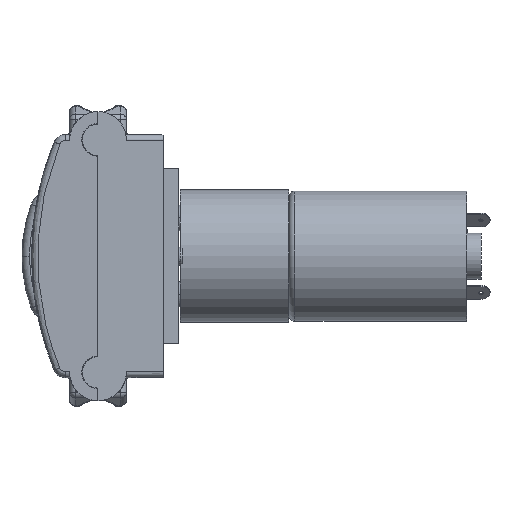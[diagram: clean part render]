
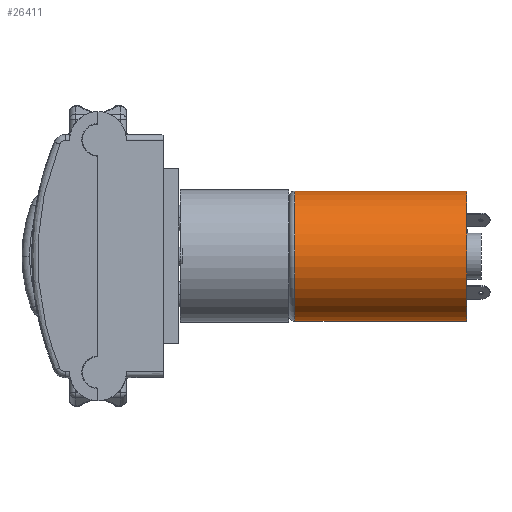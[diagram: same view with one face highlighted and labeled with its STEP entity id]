
A CAD part, front view. The second image highlights one B-rep face of the part: STEP entity #26411.
In plain terms, the highlighted cylindrical face has radius 10.8 mm (diameter 21.6 mm), a partial arc.
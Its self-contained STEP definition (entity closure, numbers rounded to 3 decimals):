
#455 = ORIENTED_EDGE ( 'NONE', *, *, #37740, .F. ) ;
#490 = DIRECTION ( 'NONE',  ( -1., 0., 0. ) ) ;
#4227 = ORIENTED_EDGE ( 'NONE', *, *, #30778, .T. ) ;
#6052 = CARTESIAN_POINT ( 'NONE',  ( 19., 0., -10.8 ) ) ;
#7832 = VECTOR ( 'NONE', #18803, 1000. ) ;
#7980 = DIRECTION ( 'NONE',  ( -1., 0., 0. ) ) ;
#8981 = CARTESIAN_POINT ( 'NONE',  ( 19., 0., 0. ) ) ;
#10738 = VERTEX_POINT ( 'NONE', #24782 ) ;
#11944 = DIRECTION ( 'NONE',  ( 0., 0., 1. ) ) ;
#12241 = VERTEX_POINT ( 'NONE', #24708 ) ;
#13202 = AXIS2_PLACEMENT_3D ( 'NONE', #25663, #7980, #28595 ) ;
#13888 = CARTESIAN_POINT ( 'NONE',  ( -14.5, 0., -10.8 ) ) ;
#15230 = DIRECTION ( 'NONE',  ( 0., 0., 1. ) ) ;
#18803 = DIRECTION ( 'NONE',  ( -1., 0., 0. ) ) ;
#20118 = CIRCLE ( 'NONE', #29299, 10.8 ) ;
#21200 = EDGE_LOOP ( 'NONE', ( #29716, #30174, #4227, #455 ) ) ;
#21639 = CARTESIAN_POINT ( 'NONE',  ( -14.5, 0., 10.8 ) ) ;
#23168 = EDGE_CURVE ( 'NONE', #29255, #37415, #26182, .T. ) ;
#23543 = LINE ( 'NONE', #21639, #7832 ) ;
#24239 = CYLINDRICAL_SURFACE ( 'NONE', #25739, 10.8 ) ;
#24708 = CARTESIAN_POINT ( 'NONE',  ( 47.5, 0., 10.8 ) ) ;
#24782 = CARTESIAN_POINT ( 'NONE',  ( 19., 0., 10.8 ) ) ;
#25663 = CARTESIAN_POINT ( 'NONE',  ( 47.5, 0., 0. ) ) ;
#25739 = AXIS2_PLACEMENT_3D ( 'NONE', #35839, #490, #15230 ) ;
#25762 = CIRCLE ( 'NONE', #13202, 10.8 ) ;
#26182 = LINE ( 'NONE', #13888, #33030 ) ;
#26411 = ADVANCED_FACE ( 'NONE', ( #32937 ), #24239, .T. ) ;
#28595 = DIRECTION ( 'NONE',  ( 0., 0., 1. ) ) ;
#29255 = VERTEX_POINT ( 'NONE', #31216 ) ;
#29299 = AXIS2_PLACEMENT_3D ( 'NONE', #8981, #29609, #11944 ) ;
#29609 = DIRECTION ( 'NONE',  ( -1., 0., 0. ) ) ;
#29716 = ORIENTED_EDGE ( 'NONE', *, *, #23168, .F. ) ;
#30174 = ORIENTED_EDGE ( 'NONE', *, *, #32319, .T. ) ;
#30778 = EDGE_CURVE ( 'NONE', #12241, #10738, #23543, .T. ) ;
#31216 = CARTESIAN_POINT ( 'NONE',  ( 47.5, 0., -10.8 ) ) ;
#32319 = EDGE_CURVE ( 'NONE', #29255, #12241, #25762, .T. ) ;
#32937 = FACE_OUTER_BOUND ( 'NONE', #21200, .T. ) ;
#33030 = VECTOR ( 'NONE', #37481, 1000. ) ;
#35839 = CARTESIAN_POINT ( 'NONE',  ( -14.5, 0., 0. ) ) ;
#37415 = VERTEX_POINT ( 'NONE', #6052 ) ;
#37481 = DIRECTION ( 'NONE',  ( -1., 0., 0. ) ) ;
#37740 = EDGE_CURVE ( 'NONE', #37415, #10738, #20118, .T. ) ;
